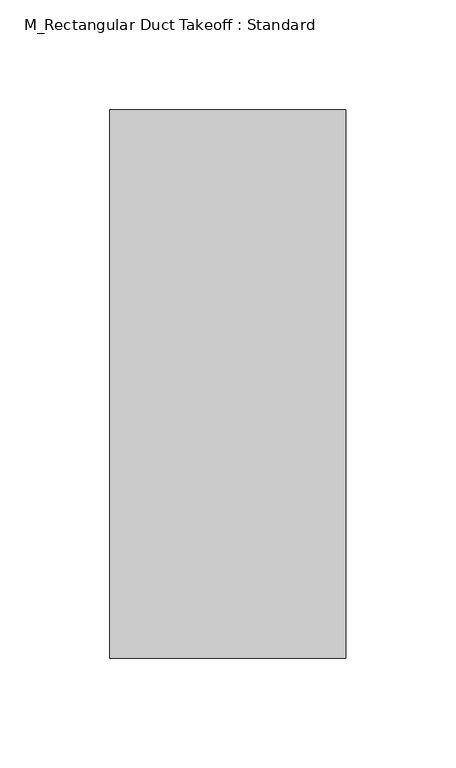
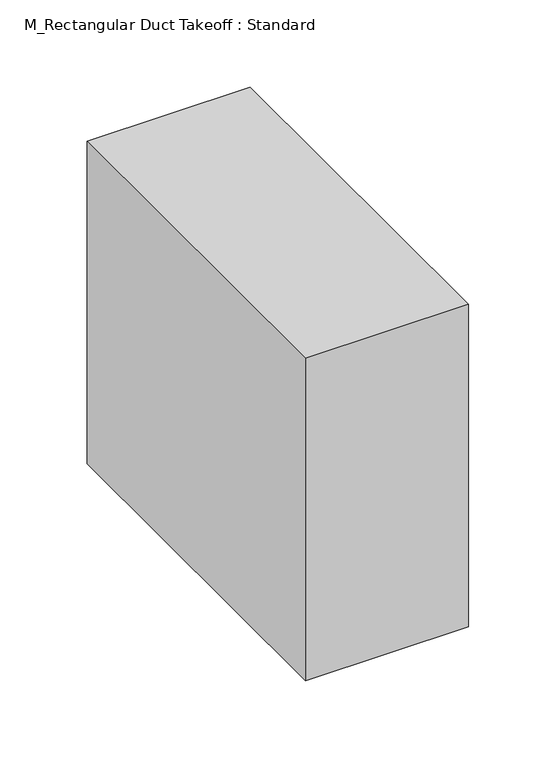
"""IFC4 building model written with IfcOpenShell, lengths in millimetres: duct fitting geometry, M_Rectangular Duct Takeoff : Standard."""

from ifc_helpers import new_model, si_unit, frame, origin, place, context, project, spatial, polyline, outline, extrude, source, transform, mapped, element, save


def m_rectangular_duct_takeoff_standard_c4c0db23(model_context):
    return source(origin(), model_context, "Body", "SweptSolid", [
        extrude(outline(polyline([(-6.096, -125.0), (-6.096, 125.0), (101.6, 125.0), (101.6, -125.0), (-6.096, -125.0)])), frame((0.0, 0.0, -112.5), z_axis=(0.0, 0.0, 1.0), x_axis=(1.0, 0.0, 0.0)), (0.0, 0.0, 1.0), 225.0),
        extrude(outline(polyline([(-6.096, -125.0), (-6.096, 125.0), (101.6, 125.0), (101.6, -125.0), (-6.096, -125.0)])), frame((0.0, 0.0, -112.5), z_axis=(0.0, 0.0, 1.0), x_axis=(1.0, 0.0, 0.0)), (0.0, 0.0, 1.0), 225.0),
        extrude(outline(polyline([(-6.096, -125.0), (-6.096, 125.0), (101.6, 125.0), (101.6, -125.0), (-6.096, -125.0)])), frame((0.0, 0.0, -112.5), z_axis=(0.0, 0.0, 1.0), x_axis=(1.0, 0.0, 0.0)), (0.0, 0.0, 1.0), 225.0),
    ])


if __name__ == "__main__":
    model = new_model("IFC4")
    model_context = context("Model", 3, world=origin())
    ifc_project = project(units=[si_unit("LENGTHUNIT", "METRE", prefix="MILLI")], contexts=[model_context])
    site = spatial("IfcSite", under=ifc_project)
    building = spatial("IfcBuilding", under=site)
    placement = place(None, origin())
    m_rectangular_duct_takeoff_standard_shape = m_rectangular_duct_takeoff_standard_c4c0db23(model_context)
    element("IfcDuctFitting", 1, ObjectType="M_Rectangular Duct Takeoff : Standard", at=placement, inside=building, context=model_context, shape_type="MappedRepresentation", body=[
        mapped(m_rectangular_duct_takeoff_standard_shape, transform((0.0, 0.0, 0.0), x_axis=(1.0, 0.0, 0.0), y_axis=(0.0, 1.0, 0.0), z_axis=(0.0, 0.0, 1.0))),
    ])
    save(model, "model.ifc")
